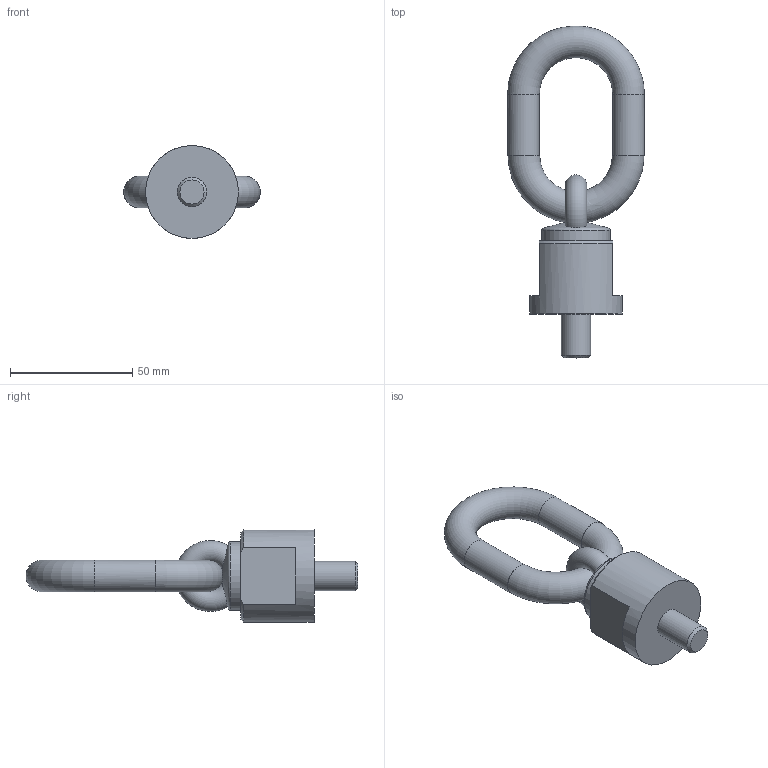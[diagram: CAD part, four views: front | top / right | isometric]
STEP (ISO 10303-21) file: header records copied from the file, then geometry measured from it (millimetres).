
FILE_DESCRIPTION( ( 'STEP AP203' ), '1' );
FILE_NAME( 'p:/temp/worker_4/temp/app_47_0201906261614102010586110e898ce_000000_00_00_000000/format_2/C8000051218.stp', '2019-06-26T14:14:12', ( '' ), ( '' ), ' ', 'PARTsolutions', ' ' );
FILE_SCHEMA( ( 'CONFIG_CONTROL_DESIGN' ) );
Length unit declared in the file: millimetre
Products named in the file (1): _C8000051218
Bounding box: 56 x 135.98 x 38 mm (x, y, z)
Volume: 64102.5 mm3; surface area: 15009.7 mm2
Topology: 1 solids, 1 shells, 25 faces, 65 edges, 40 vertices
Faces by surface type: plane 12, cylinder 5, torus 4, cone 4
Full cylindrical faces by diameter (mm): 12 x1, 13 x2, 28.2 x1, 38 x1
Entity records: 1040 total; most frequent: CARTESIAN_POINT 483, DIRECTION 110, ORIENTED_EDGE 86, AXIS2_PLACEMENT_3D 51, EDGE_CURVE 43, EDGE_LOOP 42, FACE_OUTER_BOUND 34, VERTEX_POINT 32
